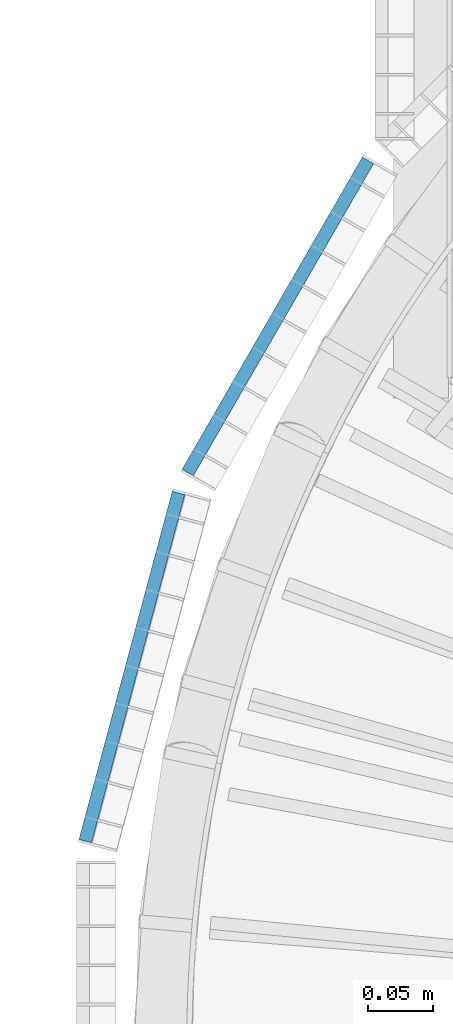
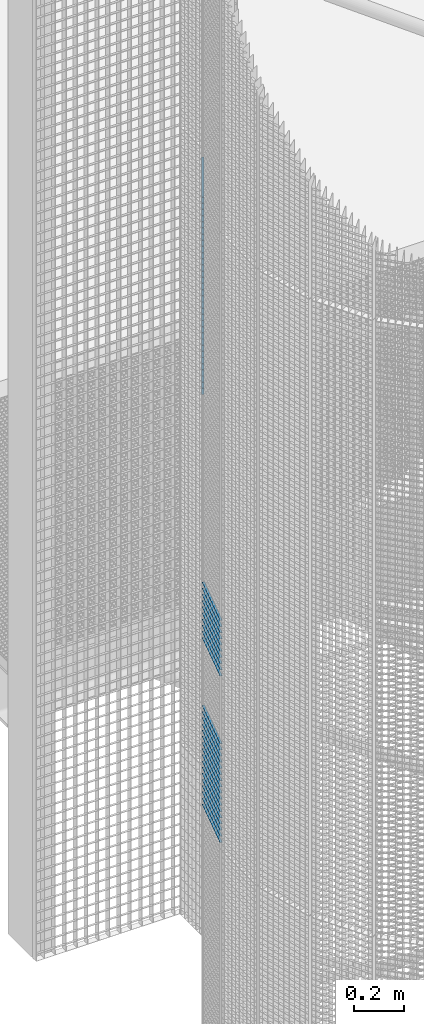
# One storey, part 196 of 1148: 60 beams, 2 elements without a shape of their own.
"""IFC2X3 building model written with IfcOpenShell, lengths in millimetres."""

from ifc_helpers import new_model, si_unit, frame, origin_with_axes, origin_2d_with_axis, place, context, subcontext, project, spatial, rectangle, extrude, material, type_object, element, aggregate, save


model = new_model("IFC2X3")

# Units and contexts
model_context = context("Model", 3, precision=1e-05, world=origin_with_axes())
body_context = subcontext(model_context, "Body", "Model", "MODEL_VIEW")
ifc_project = project(units=[si_unit("LENGTHUNIT", "METRE", prefix="MILLI"), si_unit("AREAUNIT", "SQUARE_METRE"), si_unit("VOLUMEUNIT", "CUBIC_METRE"), si_unit("MASSUNIT", "GRAM", prefix="KILO"), si_unit("TIMEUNIT", "SECOND"), si_unit("PLANEANGLEUNIT", "RADIAN"), si_unit("SOLIDANGLEUNIT", "STERADIAN"), si_unit("THERMODYNAMICTEMPERATUREUNIT", "DEGREE_CELSIUS"), si_unit("LUMINOUSINTENSITYUNIT", "LUMEN")], contexts=[model_context])

# Site, building, storey
site_placement = place(None, origin_with_axes())
site = spatial("IfcSite", under=ifc_project, at=site_placement, Name="Undefined", CompositionType="ELEMENT")
building_placement = place(site_placement, origin_with_axes())
building = spatial("IfcBuilding", under=site, at=building_placement, Name="Undefined", CompositionType="ELEMENT")
storey_placement = place(building_placement, origin_with_axes())
storey = spatial("IfcBuildingStorey", under=building, at=storey_placement, Name="Undefined", CompositionType="ELEMENT", Elevation=0.0)

# Assembly, beams
assembly_1_placement = place(storey_placement, origin_with_axes())
assembly_1 = element("IfcElementAssembly", 1, at=assembly_1_placement, inside=storey, Name="BORDURE", AssemblyPlace="NOTDEFINED", PredefinedType="NOTDEFINED")
ifc_material = material(Name="STEEL/S235JR")
beam_type = type_object("IfcBeamType", Name="PL2*10", PredefinedType="NOTDEFINED")
beam_1_placement = place(assembly_1_placement, frame((-1040.30888419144, 421.618038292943, 6840.0), z_axis=(-0.965925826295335, 0.258819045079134, 0.0), x_axis=(-0.258819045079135, -0.965925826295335, 0.0)))
beam_1 = element("IfcBeam", 2, at=beam_1_placement, type_object=beam_type, material=ifc_material, Name="ENTRETOISE", context=body_context, shape_type="SweptSolid", body=[
    extrude(rectangle(XDim=2.0, YDim=10.0, at=origin_2d_with_axis()), frame((275.999999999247, 9.09494701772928e-13, 1.53210777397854e-14), z_axis=(-1.0, 0.0, 0.0), x_axis=(0.0, -1.0, 0.0)), (0.0, 0.0, 1.0), 276.0),
])
beam_2_placement = place(assembly_1_placement, frame((-1040.30888419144, 421.618038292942, 6510.0), z_axis=(-0.965925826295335, 0.258819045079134, 0.0), x_axis=(-0.258819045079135, -0.965925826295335, 0.0)))
beam_2 = element("IfcBeam", 3, at=beam_2_placement, type_object=beam_type, material=ifc_material, Name="ENTRETOISE", context=body_context, shape_type="SweptSolid", body=[
    extrude(rectangle(XDim=2.0, YDim=10.0, at=origin_2d_with_axis()), frame((275.999999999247, 9.09494701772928e-13, 1.53210777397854e-14), z_axis=(-1.0, 0.0, 0.0), x_axis=(0.0, -1.0, 0.0)), (0.0, 0.0, 1.0), 276.0),
])
beam_3_placement = place(assembly_1_placement, frame((-1040.30888419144, 421.618038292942, 6480.0), z_axis=(-0.965925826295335, 0.258819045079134, 0.0), x_axis=(-0.258819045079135, -0.965925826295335, 0.0)))
beam_3 = element("IfcBeam", 4, at=beam_3_placement, type_object=beam_type, material=ifc_material, Name="ENTRETOISE", context=body_context, shape_type="SweptSolid", body=[
    extrude(rectangle(XDim=2.0, YDim=10.0, at=origin_2d_with_axis()), frame((275.999999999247, 9.09494701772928e-13, 1.53210777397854e-14), z_axis=(-1.0, 0.0, 0.0), x_axis=(0.0, -1.0, 0.0)), (0.0, 0.0, 1.0), 276.0),
])
beam_4_placement = place(assembly_1_placement, frame((-1040.30888419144, 421.618038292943, 6870.0), z_axis=(-0.965925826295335, 0.258819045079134, 0.0), x_axis=(-0.258819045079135, -0.965925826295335, 0.0)))
beam_4 = element("IfcBeam", 5, at=beam_4_placement, type_object=beam_type, material=ifc_material, Name="ENTRETOISE", context=body_context, shape_type="SweptSolid", body=[
    extrude(rectangle(XDim=2.0, YDim=10.0, at=origin_2d_with_axis()), frame((275.999999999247, 9.09494701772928e-13, 1.53210777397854e-14), z_axis=(-1.0, 0.0, 0.0), x_axis=(0.0, -1.0, 0.0)), (0.0, 0.0, 1.0), 276.0),
])
beam_5_placement = place(assembly_1_placement, frame((-1040.30888419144, 421.618038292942, 6450.0), z_axis=(-0.965925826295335, 0.258819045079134, 0.0), x_axis=(-0.258819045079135, -0.965925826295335, 0.0)))
beam_5 = element("IfcBeam", 6, at=beam_5_placement, type_object=beam_type, material=ifc_material, Name="ENTRETOISE", context=body_context, shape_type="SweptSolid", body=[
    extrude(rectangle(XDim=2.0, YDim=10.0, at=origin_2d_with_axis()), frame((275.999999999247, 9.09494701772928e-13, 1.53210777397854e-14), z_axis=(-1.0, 0.0, 0.0), x_axis=(0.0, -1.0, 0.0)), (0.0, 0.0, 1.0), 276.0),
])
beam_6_placement = place(assembly_1_placement, frame((-1040.30888419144, 421.618038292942, 6420.0), z_axis=(-0.965925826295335, 0.258819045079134, 0.0), x_axis=(-0.258819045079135, -0.965925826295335, 0.0)))
beam_6 = element("IfcBeam", 7, at=beam_6_placement, type_object=beam_type, material=ifc_material, Name="ENTRETOISE", context=body_context, shape_type="SweptSolid", body=[
    extrude(rectangle(XDim=2.0, YDim=10.0, at=origin_2d_with_axis()), frame((275.999999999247, 9.09494701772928e-13, 1.53210777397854e-14), z_axis=(-1.0, 0.0, 0.0), x_axis=(0.0, -1.0, 0.0)), (0.0, 0.0, 1.0), 276.0),
])
beam_7_placement = place(assembly_1_placement, frame((-1040.30888419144, 421.618038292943, 6900.0), z_axis=(-0.965925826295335, 0.258819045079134, 0.0), x_axis=(-0.258819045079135, -0.965925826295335, 0.0)))
beam_7 = element("IfcBeam", 8, at=beam_7_placement, type_object=beam_type, material=ifc_material, Name="ENTRETOISE", context=body_context, shape_type="SweptSolid", body=[
    extrude(rectangle(XDim=2.0, YDim=10.0, at=origin_2d_with_axis()), frame((275.999999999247, 9.09494701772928e-13, 1.53210777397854e-14), z_axis=(-1.0, 0.0, 0.0), x_axis=(0.0, -1.0, 0.0)), (0.0, 0.0, 1.0), 276.0),
])
beam_8_placement = place(assembly_1_placement, frame((-1040.30888419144, 421.618038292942, 6390.0), z_axis=(-0.965925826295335, 0.258819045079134, 0.0), x_axis=(-0.258819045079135, -0.965925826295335, 0.0)))
beam_8 = element("IfcBeam", 9, at=beam_8_placement, type_object=beam_type, material=ifc_material, Name="ENTRETOISE", context=body_context, shape_type="SweptSolid", body=[
    extrude(rectangle(XDim=2.0, YDim=10.0, at=origin_2d_with_axis()), frame((275.999999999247, 9.09494701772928e-13, 1.53210777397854e-14), z_axis=(-1.0, 0.0, 0.0), x_axis=(0.0, -1.0, 0.0)), (0.0, 0.0, 1.0), 276.0),
])
beam_9_placement = place(assembly_1_placement, frame((-1040.30888419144, 421.618038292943, 6930.0), z_axis=(-0.965925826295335, 0.258819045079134, 0.0), x_axis=(-0.258819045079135, -0.965925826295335, 0.0)))
beam_9 = element("IfcBeam", 10, at=beam_9_placement, type_object=beam_type, material=ifc_material, Name="ENTRETOISE", context=body_context, shape_type="SweptSolid", body=[
    extrude(rectangle(XDim=2.0, YDim=10.0, at=origin_2d_with_axis()), frame((275.999999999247, 9.09494701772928e-13, 1.53210777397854e-14), z_axis=(-1.0, 0.0, 0.0), x_axis=(0.0, -1.0, 0.0)), (0.0, 0.0, 1.0), 276.0),
])
beam_10_placement = place(assembly_1_placement, frame((-1040.30888419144, 421.618038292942, 6360.0), z_axis=(-0.965925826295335, 0.258819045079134, 0.0), x_axis=(-0.258819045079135, -0.965925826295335, 0.0)))
beam_10 = element("IfcBeam", 11, at=beam_10_placement, type_object=beam_type, material=ifc_material, Name="ENTRETOISE", context=body_context, shape_type="SweptSolid", body=[
    extrude(rectangle(XDim=2.0, YDim=10.0, at=origin_2d_with_axis()), frame((275.999999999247, 9.09494701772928e-13, 1.53210777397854e-14), z_axis=(-1.0, 0.0, 0.0), x_axis=(0.0, -1.0, 0.0)), (0.0, 0.0, 1.0), 276.0),
])
beam_11_placement = place(assembly_1_placement, frame((-1040.30888419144, 421.618038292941, 6330.0), z_axis=(-0.965925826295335, 0.258819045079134, 0.0), x_axis=(-0.258819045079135, -0.965925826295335, 0.0)))
beam_11 = element("IfcBeam", 12, at=beam_11_placement, type_object=beam_type, material=ifc_material, Name="ENTRETOISE", context=body_context, shape_type="SweptSolid", body=[
    extrude(rectangle(XDim=2.0, YDim=10.0, at=origin_2d_with_axis()), frame((275.999999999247, 9.09494701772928e-13, 1.53210777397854e-14), z_axis=(-1.0, 0.0, 0.0), x_axis=(0.0, -1.0, 0.0)), (0.0, 0.0, 1.0), 276.0),
])
beam_12_placement = place(assembly_1_placement, frame((-1040.30888419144, 421.618038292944, 6960.0), z_axis=(-0.965925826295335, 0.258819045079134, 0.0), x_axis=(-0.258819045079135, -0.965925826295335, 0.0)))
beam_12 = element("IfcBeam", 13, at=beam_12_placement, type_object=beam_type, material=ifc_material, Name="ENTRETOISE", context=body_context, shape_type="SweptSolid", body=[
    extrude(rectangle(XDim=2.0, YDim=10.0, at=origin_2d_with_axis()), frame((275.999999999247, 9.09494701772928e-13, 1.53210777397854e-14), z_axis=(-1.0, 0.0, 0.0), x_axis=(0.0, -1.0, 0.0)), (0.0, 0.0, 1.0), 276.0),
])
beam_13_placement = place(assembly_1_placement, frame((-1040.30888419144, 421.618038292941, 6300.0), z_axis=(-0.965925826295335, 0.258819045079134, 0.0), x_axis=(-0.258819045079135, -0.965925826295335, 0.0)))
beam_13 = element("IfcBeam", 14, at=beam_13_placement, type_object=beam_type, material=ifc_material, Name="ENTRETOISE", context=body_context, shape_type="SweptSolid", body=[
    extrude(rectangle(XDim=2.0, YDim=10.0, at=origin_2d_with_axis()), frame((275.999999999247, 9.09494701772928e-13, 1.53210777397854e-14), z_axis=(-1.0, 0.0, 0.0), x_axis=(0.0, -1.0, 0.0)), (0.0, 0.0, 1.0), 276.0),
])
beam_14_placement = place(assembly_1_placement, frame((-1040.30888419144, 421.618038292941, 6270.0), z_axis=(-0.965925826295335, 0.258819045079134, 0.0), x_axis=(-0.258819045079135, -0.965925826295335, 0.0)))
beam_14 = element("IfcBeam", 15, at=beam_14_placement, type_object=beam_type, material=ifc_material, Name="ENTRETOISE", context=body_context, shape_type="SweptSolid", body=[
    extrude(rectangle(XDim=2.0, YDim=10.0, at=origin_2d_with_axis()), frame((275.999999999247, 9.09494701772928e-13, 1.53210777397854e-14), z_axis=(-1.0, 0.0, 0.0), x_axis=(0.0, -1.0, 0.0)), (0.0, 0.0, 1.0), 276.0),
])
beam_15_placement = place(assembly_1_placement, frame((-1040.30888419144, 421.618038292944, 6990.0), z_axis=(-0.965925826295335, 0.258819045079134, 0.0), x_axis=(-0.258819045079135, -0.965925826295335, 0.0)))
beam_15 = element("IfcBeam", 16, at=beam_15_placement, type_object=beam_type, material=ifc_material, Name="ENTRETOISE", context=body_context, shape_type="SweptSolid", body=[
    extrude(rectangle(XDim=2.0, YDim=10.0, at=origin_2d_with_axis()), frame((275.999999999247, 9.09494701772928e-13, 1.53210777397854e-14), z_axis=(-1.0, 0.0, 0.0), x_axis=(0.0, -1.0, 0.0)), (0.0, 0.0, 1.0), 276.0),
])
beam_16_placement = place(assembly_1_placement, frame((-1040.30888419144, 421.618038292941, 6240.0), z_axis=(-0.965925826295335, 0.258819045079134, 0.0), x_axis=(-0.258819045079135, -0.965925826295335, 0.0)))
beam_16 = element("IfcBeam", 17, at=beam_16_placement, type_object=beam_type, material=ifc_material, Name="ENTRETOISE", context=body_context, shape_type="SweptSolid", body=[
    extrude(rectangle(XDim=2.0, YDim=10.0, at=origin_2d_with_axis()), frame((275.999999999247, 9.09494701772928e-13, 1.53210777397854e-14), z_axis=(-1.0, 0.0, 0.0), x_axis=(0.0, -1.0, 0.0)), (0.0, 0.0, 1.0), 276.0),
])
beam_17_placement = place(assembly_1_placement, frame((-1040.30888419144, 421.618038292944, 7020.0), z_axis=(-0.965925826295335, 0.258819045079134, 0.0), x_axis=(-0.258819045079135, -0.965925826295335, 0.0)))
beam_17 = element("IfcBeam", 18, at=beam_17_placement, type_object=beam_type, material=ifc_material, Name="ENTRETOISE", context=body_context, shape_type="SweptSolid", body=[
    extrude(rectangle(XDim=2.0, YDim=10.0, at=origin_2d_with_axis()), frame((275.999999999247, 9.09494701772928e-13, 1.53210777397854e-14), z_axis=(-1.0, 0.0, 0.0), x_axis=(0.0, -1.0, 0.0)), (0.0, 0.0, 1.0), 276.0),
])
beam_18_placement = place(assembly_1_placement, frame((-1040.30888419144, 421.618038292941, 6210.0), z_axis=(-0.965925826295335, 0.258819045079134, 0.0), x_axis=(-0.258819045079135, -0.965925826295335, 0.0)))
beam_18 = element("IfcBeam", 19, at=beam_18_placement, type_object=beam_type, material=ifc_material, Name="ENTRETOISE", context=body_context, shape_type="SweptSolid", body=[
    extrude(rectangle(XDim=2.0, YDim=10.0, at=origin_2d_with_axis()), frame((275.999999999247, 9.09494701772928e-13, 1.53210777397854e-14), z_axis=(-1.0, 0.0, 0.0), x_axis=(0.0, -1.0, 0.0)), (0.0, 0.0, 1.0), 276.0),
])
beam_19_placement = place(assembly_1_placement, frame((-1040.30888419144, 421.618038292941, 6180.0), z_axis=(-0.965925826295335, 0.258819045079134, 0.0), x_axis=(-0.258819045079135, -0.965925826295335, 0.0)))
beam_19 = element("IfcBeam", 20, at=beam_19_placement, type_object=beam_type, material=ifc_material, Name="ENTRETOISE", context=body_context, shape_type="SweptSolid", body=[
    extrude(rectangle(XDim=2.0, YDim=10.0, at=origin_2d_with_axis()), frame((275.999999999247, 9.09494701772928e-13, 1.53210777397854e-14), z_axis=(-1.0, 0.0, 0.0), x_axis=(0.0, -1.0, 0.0)), (0.0, 0.0, 1.0), 276.0),
])
beam_20_placement = place(assembly_1_placement, frame((-1040.30888419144, 421.618038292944, 7050.0), z_axis=(-0.965925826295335, 0.258819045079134, 0.0), x_axis=(-0.258819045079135, -0.965925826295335, 0.0)))
beam_20 = element("IfcBeam", 21, at=beam_20_placement, type_object=beam_type, material=ifc_material, Name="ENTRETOISE", context=body_context, shape_type="SweptSolid", body=[
    extrude(rectangle(XDim=2.0, YDim=10.0, at=origin_2d_with_axis()), frame((275.999999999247, 9.09494701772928e-13, 1.53210777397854e-14), z_axis=(-1.0, 0.0, 0.0), x_axis=(0.0, -1.0, 0.0)), (0.0, 0.0, 1.0), 276.0),
])
beam_21_placement = place(assembly_1_placement, frame((-1040.30888419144, 421.618038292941, 6150.0), z_axis=(-0.965925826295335, 0.258819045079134, 0.0), x_axis=(-0.258819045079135, -0.965925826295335, 0.0)))
beam_21 = element("IfcBeam", 22, at=beam_21_placement, type_object=beam_type, material=ifc_material, Name="ENTRETOISE", context=body_context, shape_type="SweptSolid", body=[
    extrude(rectangle(XDim=2.0, YDim=10.0, at=origin_2d_with_axis()), frame((275.999999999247, 9.09494701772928e-13, 1.53210777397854e-14), z_axis=(-1.0, 0.0, 0.0), x_axis=(0.0, -1.0, 0.0)), (0.0, 0.0, 1.0), 276.0),
])
beam_22_placement = place(assembly_1_placement, frame((-1040.30888419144, 421.618038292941, 6120.0), z_axis=(-0.965925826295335, 0.258819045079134, 0.0), x_axis=(-0.258819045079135, -0.965925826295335, 0.0)))
beam_22 = element("IfcBeam", 23, at=beam_22_placement, type_object=beam_type, material=ifc_material, Name="ENTRETOISE", context=body_context, shape_type="SweptSolid", body=[
    extrude(rectangle(XDim=2.0, YDim=10.0, at=origin_2d_with_axis()), frame((275.999999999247, 9.09494701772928e-13, 1.53210777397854e-14), z_axis=(-1.0, 0.0, 0.0), x_axis=(0.0, -1.0, 0.0)), (0.0, 0.0, 1.0), 276.0),
])
beam_23_placement = place(assembly_1_placement, frame((-1040.30888419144, 421.618038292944, 7080.0), z_axis=(-0.965925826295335, 0.258819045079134, 0.0), x_axis=(-0.258819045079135, -0.965925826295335, 0.0)))
beam_23 = element("IfcBeam", 24, at=beam_23_placement, type_object=beam_type, material=ifc_material, Name="ENTRETOISE", context=body_context, shape_type="SweptSolid", body=[
    extrude(rectangle(XDim=2.0, YDim=10.0, at=origin_2d_with_axis()), frame((275.999999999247, 9.09494701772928e-13, 1.53210777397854e-14), z_axis=(-1.0, 0.0, 0.0), x_axis=(0.0, -1.0, 0.0)), (0.0, 0.0, 1.0), 276.0),
])
beam_24_placement = place(assembly_1_placement, frame((-1040.30888419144, 421.618038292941, 6090.0), z_axis=(-0.965925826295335, 0.258819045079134, 0.0), x_axis=(-0.258819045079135, -0.965925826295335, 0.0)))
beam_24 = element("IfcBeam", 25, at=beam_24_placement, type_object=beam_type, material=ifc_material, Name="ENTRETOISE", context=body_context, shape_type="SweptSolid", body=[
    extrude(rectangle(XDim=2.0, YDim=10.0, at=origin_2d_with_axis()), frame((275.999999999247, 9.09494701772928e-13, 1.53210777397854e-14), z_axis=(-1.0, 0.0, 0.0), x_axis=(0.0, -1.0, 0.0)), (0.0, 0.0, 1.0), 276.0),
])
beam_25_placement = place(assembly_1_placement, frame((-1040.30888419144, 421.618038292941, 6060.0), z_axis=(-0.965925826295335, 0.258819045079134, 0.0), x_axis=(-0.258819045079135, -0.965925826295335, 0.0)))
beam_25 = element("IfcBeam", 26, at=beam_25_placement, type_object=beam_type, material=ifc_material, Name="ENTRETOISE", context=body_context, shape_type="SweptSolid", body=[
    extrude(rectangle(XDim=2.0, YDim=10.0, at=origin_2d_with_axis()), frame((275.999999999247, 9.09494701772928e-13, 1.53210777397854e-14), z_axis=(-1.0, 0.0, 0.0), x_axis=(0.0, -1.0, 0.0)), (0.0, 0.0, 1.0), 276.0),
])
beam_26_placement = place(assembly_1_placement, frame((-1040.30888419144, 421.618038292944, 7110.0), z_axis=(-0.965925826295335, 0.258819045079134, 0.0), x_axis=(-0.258819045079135, -0.965925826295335, 0.0)))
beam_26 = element("IfcBeam", 27, at=beam_26_placement, type_object=beam_type, material=ifc_material, Name="ENTRETOISE", context=body_context, shape_type="SweptSolid", body=[
    extrude(rectangle(XDim=2.0, YDim=10.0, at=origin_2d_with_axis()), frame((275.999999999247, 9.09494701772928e-13, 1.53210777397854e-14), z_axis=(-1.0, 0.0, 0.0), x_axis=(0.0, -1.0, 0.0)), (0.0, 0.0, 1.0), 276.0),
])
beam_27_placement = place(assembly_1_placement, frame((-1040.30888419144, 421.618038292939, 6030.0), z_axis=(-0.965925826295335, 0.258819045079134, 0.0), x_axis=(-0.258819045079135, -0.965925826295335, 0.0)))
beam_27 = element("IfcBeam", 28, at=beam_27_placement, type_object=beam_type, material=ifc_material, Name="ENTRETOISE", context=body_context, shape_type="SweptSolid", body=[
    extrude(rectangle(XDim=2.0, YDim=10.0, at=origin_2d_with_axis()), frame((275.999999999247, 9.09494701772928e-13, 1.53210777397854e-14), z_axis=(-1.0, 0.0, 0.0), x_axis=(0.0, -1.0, 0.0)), (0.0, 0.0, 1.0), 276.0),
])
aggregate(assembly_1, [beam_1, beam_2, beam_3, beam_4, beam_5, beam_6, beam_7, beam_8, beam_9, beam_10, beam_11, beam_12, beam_13, beam_14, beam_15, beam_16, beam_17, beam_18, beam_19, beam_20, beam_21, beam_22, beam_23, beam_24, beam_25, beam_26, beam_27])

assembly_2_placement = place(storey_placement, origin_with_axes())
assembly_2 = element("IfcElementAssembly", 29, at=assembly_2_placement, inside=storey, Name="BORDURE", AssemblyPlace="NOTDEFINED", PredefinedType="NOTDEFINED")
beam_28_placement = place(assembly_2_placement, frame((-895.303964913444, 676.248044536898, 8970.0), z_axis=(-0.866025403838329, 0.499999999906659, 0.0), x_axis=(-0.49999999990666, -0.866025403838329, 0.0)))
beam_28 = element("IfcBeam", 30, at=beam_28_placement, type_object=beam_type, material=ifc_material, Name="ENTRETOISE", context=body_context, shape_type="SweptSolid", body=[
    extrude(rectangle(XDim=2.0, YDim=10.0, at=origin_2d_with_axis()), frame((275.999999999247, 9.09494701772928e-13, 1.53210777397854e-14), z_axis=(-1.0, 0.0, 0.0), x_axis=(0.0, -1.0, 0.0)), (0.0, 0.0, 1.0), 276.0),
])
beam_29_placement = place(assembly_2_placement, frame((-895.303964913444, 676.248044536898, 8940.0), z_axis=(-0.866025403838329, 0.499999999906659, 0.0), x_axis=(-0.49999999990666, -0.866025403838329, 0.0)))
beam_29 = element("IfcBeam", 31, at=beam_29_placement, type_object=beam_type, material=ifc_material, Name="ENTRETOISE", context=body_context, shape_type="SweptSolid", body=[
    extrude(rectangle(XDim=2.0, YDim=10.0, at=origin_2d_with_axis()), frame((275.999999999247, 9.09494701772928e-13, 1.53210777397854e-14), z_axis=(-1.0, 0.0, 0.0), x_axis=(0.0, -1.0, 0.0)), (0.0, 0.0, 1.0), 276.0),
])
beam_30_placement = place(assembly_2_placement, frame((-895.303964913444, 676.248044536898, 8910.0), z_axis=(-0.866025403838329, 0.499999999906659, 0.0), x_axis=(-0.49999999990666, -0.866025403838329, 0.0)))
beam_30 = element("IfcBeam", 32, at=beam_30_placement, type_object=beam_type, material=ifc_material, Name="ENTRETOISE", context=body_context, shape_type="SweptSolid", body=[
    extrude(rectangle(XDim=2.0, YDim=10.0, at=origin_2d_with_axis()), frame((275.999999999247, 9.09494701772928e-13, 1.53210777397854e-14), z_axis=(-1.0, 0.0, 0.0), x_axis=(0.0, -1.0, 0.0)), (0.0, 0.0, 1.0), 276.0),
])
beam_31_placement = place(assembly_2_placement, frame((-895.303964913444, 676.248044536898, 8880.0), z_axis=(-0.866025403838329, 0.499999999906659, 0.0), x_axis=(-0.49999999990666, -0.866025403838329, 0.0)))
beam_31 = element("IfcBeam", 33, at=beam_31_placement, type_object=beam_type, material=ifc_material, Name="ENTRETOISE", context=body_context, shape_type="SweptSolid", body=[
    extrude(rectangle(XDim=2.0, YDim=10.0, at=origin_2d_with_axis()), frame((275.999999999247, 9.09494701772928e-13, 1.53210777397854e-14), z_axis=(-1.0, 0.0, 0.0), x_axis=(0.0, -1.0, 0.0)), (0.0, 0.0, 1.0), 276.0),
])
beam_32_placement = place(assembly_2_placement, frame((-895.303964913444, 676.248044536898, 8850.0), z_axis=(-0.866025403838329, 0.499999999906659, 0.0), x_axis=(-0.49999999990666, -0.866025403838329, 0.0)))
beam_32 = element("IfcBeam", 34, at=beam_32_placement, type_object=beam_type, material=ifc_material, Name="ENTRETOISE", context=body_context, shape_type="SweptSolid", body=[
    extrude(rectangle(XDim=2.0, YDim=10.0, at=origin_2d_with_axis()), frame((275.999999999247, 9.09494701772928e-13, 1.53210777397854e-14), z_axis=(-1.0, 0.0, 0.0), x_axis=(0.0, -1.0, 0.0)), (0.0, 0.0, 1.0), 276.0),
])
beam_33_placement = place(assembly_2_placement, frame((-895.303964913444, 676.248044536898, 8820.0), z_axis=(-0.866025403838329, 0.499999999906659, 0.0), x_axis=(-0.49999999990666, -0.866025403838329, 0.0)))
beam_33 = element("IfcBeam", 35, at=beam_33_placement, type_object=beam_type, material=ifc_material, Name="ENTRETOISE", context=body_context, shape_type="SweptSolid", body=[
    extrude(rectangle(XDim=2.0, YDim=10.0, at=origin_2d_with_axis()), frame((275.999999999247, 9.09494701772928e-13, 1.53210777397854e-14), z_axis=(-1.0, 0.0, 0.0), x_axis=(0.0, -1.0, 0.0)), (0.0, 0.0, 1.0), 276.0),
])
beam_34_placement = place(assembly_2_placement, frame((-895.303964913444, 676.248044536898, 8790.0), z_axis=(-0.866025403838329, 0.499999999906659, 0.0), x_axis=(-0.49999999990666, -0.866025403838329, 0.0)))
beam_34 = element("IfcBeam", 36, at=beam_34_placement, type_object=beam_type, material=ifc_material, Name="ENTRETOISE", context=body_context, shape_type="SweptSolid", body=[
    extrude(rectangle(XDim=2.0, YDim=10.0, at=origin_2d_with_axis()), frame((275.999999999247, 9.09494701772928e-13, 1.53210777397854e-14), z_axis=(-1.0, 0.0, 0.0), x_axis=(0.0, -1.0, 0.0)), (0.0, 0.0, 1.0), 276.0),
])
beam_35_placement = place(assembly_2_placement, frame((-895.303964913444, 676.248044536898, 8760.0), z_axis=(-0.866025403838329, 0.499999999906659, 0.0), x_axis=(-0.49999999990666, -0.866025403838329, 0.0)))
beam_35 = element("IfcBeam", 37, at=beam_35_placement, type_object=beam_type, material=ifc_material, Name="ENTRETOISE", context=body_context, shape_type="SweptSolid", body=[
    extrude(rectangle(XDim=2.0, YDim=10.0, at=origin_2d_with_axis()), frame((275.999999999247, 9.09494701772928e-13, 1.53210777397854e-14), z_axis=(-1.0, 0.0, 0.0), x_axis=(0.0, -1.0, 0.0)), (0.0, 0.0, 1.0), 276.0),
])
beam_36_placement = place(assembly_2_placement, frame((-895.303964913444, 676.248044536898, 8730.0), z_axis=(-0.866025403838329, 0.499999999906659, 0.0), x_axis=(-0.49999999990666, -0.866025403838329, 0.0)))
beam_36 = element("IfcBeam", 38, at=beam_36_placement, type_object=beam_type, material=ifc_material, Name="ENTRETOISE", context=body_context, shape_type="SweptSolid", body=[
    extrude(rectangle(XDim=2.0, YDim=10.0, at=origin_2d_with_axis()), frame((275.999999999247, 9.09494701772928e-13, 1.53210777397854e-14), z_axis=(-1.0, 0.0, 0.0), x_axis=(0.0, -1.0, 0.0)), (0.0, 0.0, 1.0), 276.0),
])
beam_37_placement = place(assembly_2_placement, frame((-895.303964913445, 676.248044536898, 8700.0), z_axis=(-0.866025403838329, 0.499999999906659, 0.0), x_axis=(-0.49999999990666, -0.866025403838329, 0.0)))
beam_37 = element("IfcBeam", 39, at=beam_37_placement, type_object=beam_type, material=ifc_material, Name="ENTRETOISE", context=body_context, shape_type="SweptSolid", body=[
    extrude(rectangle(XDim=2.0, YDim=10.0, at=origin_2d_with_axis()), frame((275.999999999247, 9.09494701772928e-13, 1.53210777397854e-14), z_axis=(-1.0, 0.0, 0.0), x_axis=(0.0, -1.0, 0.0)), (0.0, 0.0, 1.0), 276.0),
])
beam_38_placement = place(assembly_2_placement, frame((-895.303964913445, 676.248044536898, 8670.0), z_axis=(-0.866025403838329, 0.499999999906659, 0.0), x_axis=(-0.49999999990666, -0.866025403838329, 0.0)))
beam_38 = element("IfcBeam", 40, at=beam_38_placement, type_object=beam_type, material=ifc_material, Name="ENTRETOISE", context=body_context, shape_type="SweptSolid", body=[
    extrude(rectangle(XDim=2.0, YDim=10.0, at=origin_2d_with_axis()), frame((275.999999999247, 9.09494701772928e-13, 1.53210777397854e-14), z_axis=(-1.0, 0.0, 0.0), x_axis=(0.0, -1.0, 0.0)), (0.0, 0.0, 1.0), 276.0),
])
beam_39_placement = place(assembly_2_placement, frame((-895.303964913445, 676.248044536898, 8640.0), z_axis=(-0.866025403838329, 0.499999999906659, 0.0), x_axis=(-0.49999999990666, -0.866025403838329, 0.0)))
beam_39 = element("IfcBeam", 41, at=beam_39_placement, type_object=beam_type, material=ifc_material, Name="ENTRETOISE", context=body_context, shape_type="SweptSolid", body=[
    extrude(rectangle(XDim=2.0, YDim=10.0, at=origin_2d_with_axis()), frame((275.999999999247, 9.09494701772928e-13, 1.53210777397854e-14), z_axis=(-1.0, 0.0, 0.0), x_axis=(0.0, -1.0, 0.0)), (0.0, 0.0, 1.0), 276.0),
])
beam_40_placement = place(assembly_2_placement, frame((-895.303964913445, 676.248044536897, 8610.0), z_axis=(-0.866025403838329, 0.499999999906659, 0.0), x_axis=(-0.49999999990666, -0.866025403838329, 0.0)))
beam_40 = element("IfcBeam", 42, at=beam_40_placement, type_object=beam_type, material=ifc_material, Name="ENTRETOISE", context=body_context, shape_type="SweptSolid", body=[
    extrude(rectangle(XDim=2.0, YDim=10.0, at=origin_2d_with_axis()), frame((275.999999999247, 9.09494701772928e-13, 1.53210777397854e-14), z_axis=(-1.0, 0.0, 0.0), x_axis=(0.0, -1.0, 0.0)), (0.0, 0.0, 1.0), 276.0),
])
beam_41_placement = place(assembly_2_placement, frame((-895.303964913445, 676.248044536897, 8580.0), z_axis=(-0.866025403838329, 0.499999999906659, 0.0), x_axis=(-0.49999999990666, -0.866025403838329, 0.0)))
beam_41 = element("IfcBeam", 43, at=beam_41_placement, type_object=beam_type, material=ifc_material, Name="ENTRETOISE", context=body_context, shape_type="SweptSolid", body=[
    extrude(rectangle(XDim=2.0, YDim=10.0, at=origin_2d_with_axis()), frame((275.999999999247, 9.09494701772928e-13, 1.53210777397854e-14), z_axis=(-1.0, 0.0, 0.0), x_axis=(0.0, -1.0, 0.0)), (0.0, 0.0, 1.0), 276.0),
])
beam_42_placement = place(assembly_2_placement, frame((-895.303964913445, 676.248044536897, 8550.0), z_axis=(-0.866025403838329, 0.499999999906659, 0.0), x_axis=(-0.49999999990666, -0.866025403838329, 0.0)))
beam_42 = element("IfcBeam", 44, at=beam_42_placement, type_object=beam_type, material=ifc_material, Name="ENTRETOISE", context=body_context, shape_type="SweptSolid", body=[
    extrude(rectangle(XDim=2.0, YDim=10.0, at=origin_2d_with_axis()), frame((275.999999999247, 9.09494701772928e-13, 1.53210777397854e-14), z_axis=(-1.0, 0.0, 0.0), x_axis=(0.0, -1.0, 0.0)), (0.0, 0.0, 1.0), 276.0),
])
beam_43_placement = place(assembly_2_placement, frame((-895.303964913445, 676.248044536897, 8520.0), z_axis=(-0.866025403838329, 0.499999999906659, 0.0), x_axis=(-0.49999999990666, -0.866025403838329, 0.0)))
beam_43 = element("IfcBeam", 45, at=beam_43_placement, type_object=beam_type, material=ifc_material, Name="ENTRETOISE", context=body_context, shape_type="SweptSolid", body=[
    extrude(rectangle(XDim=2.0, YDim=10.0, at=origin_2d_with_axis()), frame((275.999999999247, 9.09494701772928e-13, 1.53210777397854e-14), z_axis=(-1.0, 0.0, 0.0), x_axis=(0.0, -1.0, 0.0)), (0.0, 0.0, 1.0), 276.0),
])
beam_44_placement = place(assembly_2_placement, frame((-895.303964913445, 676.248044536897, 8490.0), z_axis=(-0.866025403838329, 0.499999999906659, 0.0), x_axis=(-0.49999999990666, -0.866025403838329, 0.0)))
beam_44 = element("IfcBeam", 46, at=beam_44_placement, type_object=beam_type, material=ifc_material, Name="ENTRETOISE", context=body_context, shape_type="SweptSolid", body=[
    extrude(rectangle(XDim=2.0, YDim=10.0, at=origin_2d_with_axis()), frame((275.999999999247, 9.09494701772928e-13, 1.53210777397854e-14), z_axis=(-1.0, 0.0, 0.0), x_axis=(0.0, -1.0, 0.0)), (0.0, 0.0, 1.0), 276.0),
])
beam_45_placement = place(assembly_2_placement, frame((-895.303964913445, 676.248044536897, 8460.0), z_axis=(-0.866025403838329, 0.499999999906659, 0.0), x_axis=(-0.49999999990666, -0.866025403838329, 0.0)))
beam_45 = element("IfcBeam", 47, at=beam_45_placement, type_object=beam_type, material=ifc_material, Name="ENTRETOISE", context=body_context, shape_type="SweptSolid", body=[
    extrude(rectangle(XDim=2.0, YDim=10.0, at=origin_2d_with_axis()), frame((275.999999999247, 9.09494701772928e-13, 1.53210777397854e-14), z_axis=(-1.0, 0.0, 0.0), x_axis=(0.0, -1.0, 0.0)), (0.0, 0.0, 1.0), 276.0),
])
beam_46_placement = place(assembly_2_placement, frame((-895.303964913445, 676.248044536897, 8430.0), z_axis=(-0.866025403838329, 0.499999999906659, 0.0), x_axis=(-0.49999999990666, -0.866025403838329, 0.0)))
beam_46 = element("IfcBeam", 48, at=beam_46_placement, type_object=beam_type, material=ifc_material, Name="ENTRETOISE", context=body_context, shape_type="SweptSolid", body=[
    extrude(rectangle(XDim=2.0, YDim=10.0, at=origin_2d_with_axis()), frame((275.999999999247, 9.09494701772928e-13, 1.53210777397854e-14), z_axis=(-1.0, 0.0, 0.0), x_axis=(0.0, -1.0, 0.0)), (0.0, 0.0, 1.0), 276.0),
])
beam_47_placement = place(assembly_2_placement, frame((-895.303964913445, 676.248044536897, 8400.0), z_axis=(-0.866025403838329, 0.499999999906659, 0.0), x_axis=(-0.49999999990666, -0.866025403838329, 0.0)))
beam_47 = element("IfcBeam", 49, at=beam_47_placement, type_object=beam_type, material=ifc_material, Name="ENTRETOISE", context=body_context, shape_type="SweptSolid", body=[
    extrude(rectangle(XDim=2.0, YDim=10.0, at=origin_2d_with_axis()), frame((275.999999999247, 9.09494701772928e-13, 1.53210777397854e-14), z_axis=(-1.0, 0.0, 0.0), x_axis=(0.0, -1.0, 0.0)), (0.0, 0.0, 1.0), 276.0),
])
beam_48_placement = place(assembly_2_placement, frame((-895.303964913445, 676.248044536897, 8370.0), z_axis=(-0.866025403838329, 0.499999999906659, 0.0), x_axis=(-0.49999999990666, -0.866025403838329, 0.0)))
beam_48 = element("IfcBeam", 50, at=beam_48_placement, type_object=beam_type, material=ifc_material, Name="ENTRETOISE", context=body_context, shape_type="SweptSolid", body=[
    extrude(rectangle(XDim=2.0, YDim=10.0, at=origin_2d_with_axis()), frame((275.999999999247, 9.09494701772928e-13, 1.53210777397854e-14), z_axis=(-1.0, 0.0, 0.0), x_axis=(0.0, -1.0, 0.0)), (0.0, 0.0, 1.0), 276.0),
])
beam_49_placement = place(assembly_2_placement, frame((-895.303964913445, 676.248044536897, 8340.0), z_axis=(-0.866025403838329, 0.499999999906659, 0.0), x_axis=(-0.49999999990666, -0.866025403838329, 0.0)))
beam_49 = element("IfcBeam", 51, at=beam_49_placement, type_object=beam_type, material=ifc_material, Name="ENTRETOISE", context=body_context, shape_type="SweptSolid", body=[
    extrude(rectangle(XDim=2.0, YDim=10.0, at=origin_2d_with_axis()), frame((275.999999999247, 9.09494701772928e-13, 1.53210777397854e-14), z_axis=(-1.0, 0.0, 0.0), x_axis=(0.0, -1.0, 0.0)), (0.0, 0.0, 1.0), 276.0),
])
beam_50_placement = place(assembly_2_placement, frame((-895.303964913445, 676.248044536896, 8310.0), z_axis=(-0.866025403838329, 0.499999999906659, 0.0), x_axis=(-0.49999999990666, -0.866025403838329, 0.0)))
beam_50 = element("IfcBeam", 52, at=beam_50_placement, type_object=beam_type, material=ifc_material, Name="ENTRETOISE", context=body_context, shape_type="SweptSolid", body=[
    extrude(rectangle(XDim=2.0, YDim=10.0, at=origin_2d_with_axis()), frame((275.999999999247, 9.09494701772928e-13, 1.53210777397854e-14), z_axis=(-1.0, 0.0, 0.0), x_axis=(0.0, -1.0, 0.0)), (0.0, 0.0, 1.0), 276.0),
])
beam_51_placement = place(assembly_2_placement, frame((-895.303964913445, 676.248044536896, 8280.0), z_axis=(-0.866025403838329, 0.499999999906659, 0.0), x_axis=(-0.49999999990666, -0.866025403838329, 0.0)))
beam_51 = element("IfcBeam", 53, at=beam_51_placement, type_object=beam_type, material=ifc_material, Name="ENTRETOISE", context=body_context, shape_type="SweptSolid", body=[
    extrude(rectangle(XDim=2.0, YDim=10.0, at=origin_2d_with_axis()), frame((275.999999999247, 9.09494701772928e-13, 1.53210777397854e-14), z_axis=(-1.0, 0.0, 0.0), x_axis=(0.0, -1.0, 0.0)), (0.0, 0.0, 1.0), 276.0),
])
beam_52_placement = place(assembly_2_placement, frame((-895.303964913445, 676.248044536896, 8250.0), z_axis=(-0.866025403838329, 0.499999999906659, 0.0), x_axis=(-0.49999999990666, -0.866025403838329, 0.0)))
beam_52 = element("IfcBeam", 54, at=beam_52_placement, type_object=beam_type, material=ifc_material, Name="ENTRETOISE", context=body_context, shape_type="SweptSolid", body=[
    extrude(rectangle(XDim=2.0, YDim=10.0, at=origin_2d_with_axis()), frame((275.999999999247, 9.09494701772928e-13, 1.53210777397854e-14), z_axis=(-1.0, 0.0, 0.0), x_axis=(0.0, -1.0, 0.0)), (0.0, 0.0, 1.0), 276.0),
])
beam_53_placement = place(assembly_2_placement, frame((-895.303964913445, 676.248044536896, 8220.0), z_axis=(-0.866025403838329, 0.499999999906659, 0.0), x_axis=(-0.49999999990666, -0.866025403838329, 0.0)))
beam_53 = element("IfcBeam", 55, at=beam_53_placement, type_object=beam_type, material=ifc_material, Name="ENTRETOISE", context=body_context, shape_type="SweptSolid", body=[
    extrude(rectangle(XDim=2.0, YDim=10.0, at=origin_2d_with_axis()), frame((275.999999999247, 9.09494701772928e-13, 1.53210777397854e-14), z_axis=(-1.0, 0.0, 0.0), x_axis=(0.0, -1.0, 0.0)), (0.0, 0.0, 1.0), 276.0),
])
beam_54_placement = place(assembly_2_placement, frame((-895.303964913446, 676.248044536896, 8190.0), z_axis=(-0.866025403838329, 0.499999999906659, 0.0), x_axis=(-0.49999999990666, -0.866025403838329, 0.0)))
beam_54 = element("IfcBeam", 56, at=beam_54_placement, type_object=beam_type, material=ifc_material, Name="ENTRETOISE", context=body_context, shape_type="SweptSolid", body=[
    extrude(rectangle(XDim=2.0, YDim=10.0, at=origin_2d_with_axis()), frame((275.999999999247, 9.09494701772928e-13, 1.53210777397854e-14), z_axis=(-1.0, 0.0, 0.0), x_axis=(0.0, -1.0, 0.0)), (0.0, 0.0, 1.0), 276.0),
])
beam_55_placement = place(assembly_2_placement, frame((-895.303964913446, 676.248044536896, 8160.0), z_axis=(-0.866025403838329, 0.499999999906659, 0.0), x_axis=(-0.49999999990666, -0.866025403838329, 0.0)))
beam_55 = element("IfcBeam", 57, at=beam_55_placement, type_object=beam_type, material=ifc_material, Name="ENTRETOISE", context=body_context, shape_type="SweptSolid", body=[
    extrude(rectangle(XDim=2.0, YDim=10.0, at=origin_2d_with_axis()), frame((275.999999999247, 9.09494701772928e-13, 1.53210777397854e-14), z_axis=(-1.0, 0.0, 0.0), x_axis=(0.0, -1.0, 0.0)), (0.0, 0.0, 1.0), 276.0),
])
beam_56_placement = place(assembly_2_placement, frame((-895.303964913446, 676.248044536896, 8130.0), z_axis=(-0.866025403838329, 0.499999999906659, 0.0), x_axis=(-0.49999999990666, -0.866025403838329, 0.0)))
beam_56 = element("IfcBeam", 58, at=beam_56_placement, type_object=beam_type, material=ifc_material, Name="ENTRETOISE", context=body_context, shape_type="SweptSolid", body=[
    extrude(rectangle(XDim=2.0, YDim=10.0, at=origin_2d_with_axis()), frame((275.999999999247, 9.09494701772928e-13, 1.53210777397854e-14), z_axis=(-1.0, 0.0, 0.0), x_axis=(0.0, -1.0, 0.0)), (0.0, 0.0, 1.0), 276.0),
])
beam_57_placement = place(assembly_2_placement, frame((-895.303964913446, 676.248044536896, 8100.0), z_axis=(-0.866025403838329, 0.499999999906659, 0.0), x_axis=(-0.49999999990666, -0.866025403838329, 0.0)))
beam_57 = element("IfcBeam", 59, at=beam_57_placement, type_object=beam_type, material=ifc_material, Name="ENTRETOISE", context=body_context, shape_type="SweptSolid", body=[
    extrude(rectangle(XDim=2.0, YDim=10.0, at=origin_2d_with_axis()), frame((275.999999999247, 9.09494701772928e-13, 1.53210777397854e-14), z_axis=(-1.0, 0.0, 0.0), x_axis=(0.0, -1.0, 0.0)), (0.0, 0.0, 1.0), 276.0),
])
beam_58_placement = place(assembly_2_placement, frame((-895.303964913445, 676.248044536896, 8070.0), z_axis=(-0.866025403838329, 0.499999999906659, 0.0), x_axis=(-0.49999999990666, -0.866025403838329, 0.0)))
beam_58 = element("IfcBeam", 60, at=beam_58_placement, type_object=beam_type, material=ifc_material, Name="ENTRETOISE", context=body_context, shape_type="SweptSolid", body=[
    extrude(rectangle(XDim=2.0, YDim=10.0, at=origin_2d_with_axis()), frame((275.999999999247, 9.09494701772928e-13, 1.53210777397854e-14), z_axis=(-1.0, 0.0, 0.0), x_axis=(0.0, -1.0, 0.0)), (0.0, 0.0, 1.0), 276.0),
])
beam_59_placement = place(assembly_2_placement, frame((-895.303964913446, 676.248044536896, 8040.0), z_axis=(-0.866025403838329, 0.499999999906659, 0.0), x_axis=(-0.49999999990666, -0.866025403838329, 0.0)))
beam_59 = element("IfcBeam", 61, at=beam_59_placement, type_object=beam_type, material=ifc_material, Name="ENTRETOISE", context=body_context, shape_type="SweptSolid", body=[
    extrude(rectangle(XDim=2.0, YDim=10.0, at=origin_2d_with_axis()), frame((275.999999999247, 9.09494701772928e-13, 1.53210777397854e-14), z_axis=(-1.0, 0.0, 0.0), x_axis=(0.0, -1.0, 0.0)), (0.0, 0.0, 1.0), 276.0),
])
beam_60_placement = place(assembly_2_placement, frame((-895.303964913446, 676.248044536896, 8010.0), z_axis=(-0.866025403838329, 0.499999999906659, 0.0), x_axis=(-0.49999999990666, -0.866025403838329, 0.0)))
beam_60 = element("IfcBeam", 62, at=beam_60_placement, type_object=beam_type, material=ifc_material, Name="ENTRETOISE", context=body_context, shape_type="SweptSolid", body=[
    extrude(rectangle(XDim=2.0, YDim=10.0, at=origin_2d_with_axis()), frame((275.999999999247, 9.09494701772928e-13, 1.53210777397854e-14), z_axis=(-1.0, 0.0, 0.0), x_axis=(0.0, -1.0, 0.0)), (0.0, 0.0, 1.0), 276.0),
])
aggregate(assembly_2, [beam_28, beam_29, beam_30, beam_31, beam_32, beam_33, beam_34, beam_35, beam_36, beam_37, beam_38, beam_39, beam_40, beam_41, beam_42, beam_43, beam_44, beam_45, beam_46, beam_47, beam_48, beam_49, beam_50, beam_51, beam_52, beam_53, beam_54, beam_55, beam_56, beam_57, beam_58, beam_59, beam_60])

save(model, "model.ifc")
